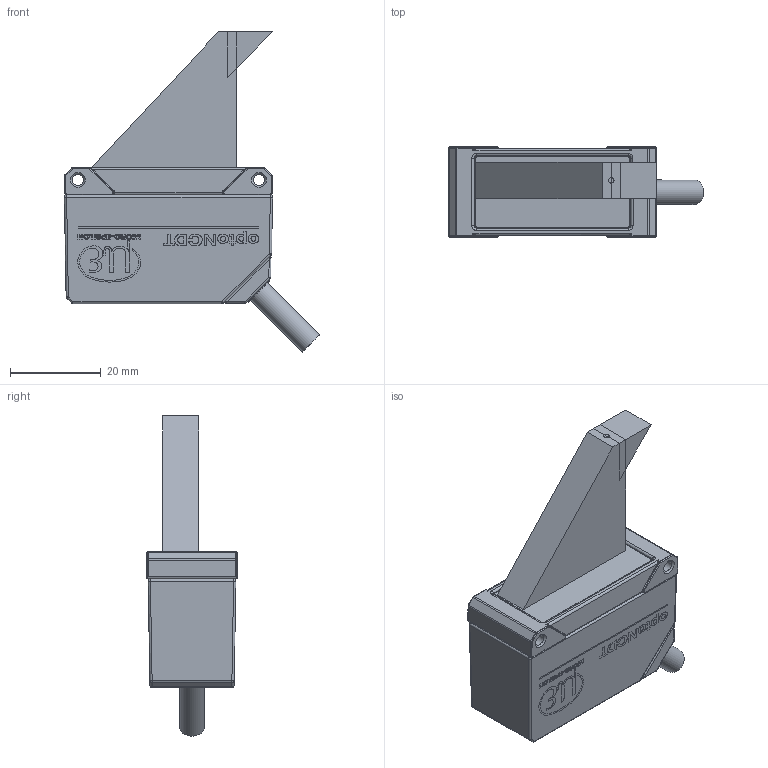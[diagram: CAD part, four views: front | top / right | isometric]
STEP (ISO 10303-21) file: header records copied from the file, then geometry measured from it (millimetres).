
FILE_DESCRIPTION (( 'STEP AP214' ), '1' );
FILE_NAME ('ILD1x20-10_3.step', '2025-11-05T08:49:57', ( '' ), ( '' ), 'SwSTEP 2.0', 'SolidWorks 2022', '' );
FILE_SCHEMA (( 'AUTOMOTIVE_DESIGN' ));
Length unit declared in the file: millimetre
Products named in the file (1): ILD1x20-10_3
Bounding box: 56.38 x 20 x 70.71 mm (x, y, z)
Volume: 29975.3 mm3; surface area: 11870.9 mm2
Topology: 10 solids, 10 shells, 2119 faces, 5578 edges, 3598 vertices
Faces by surface type: bspline 1001, plane 905, cylinder 144, torus 26, cone 23, sphere 20
Full cylindrical faces by diameter (mm): 0.7 x1, 0.8 x1, 1.2 x1, 1.6 x2, 2.4 x1, 2.5 x2, 3 x2, 5.4 x1, 7.5 x1, 8 x1
Entity records: 87476 total; most frequent: CARTESIAN_POINT 41430, ORIENTED_EDGE 10956, DIRECTION 6000, EDGE_CURVE 5478, VERTEX_POINT 3577, LINE 3100, VECTOR 3100, EDGE_LOOP 2327
